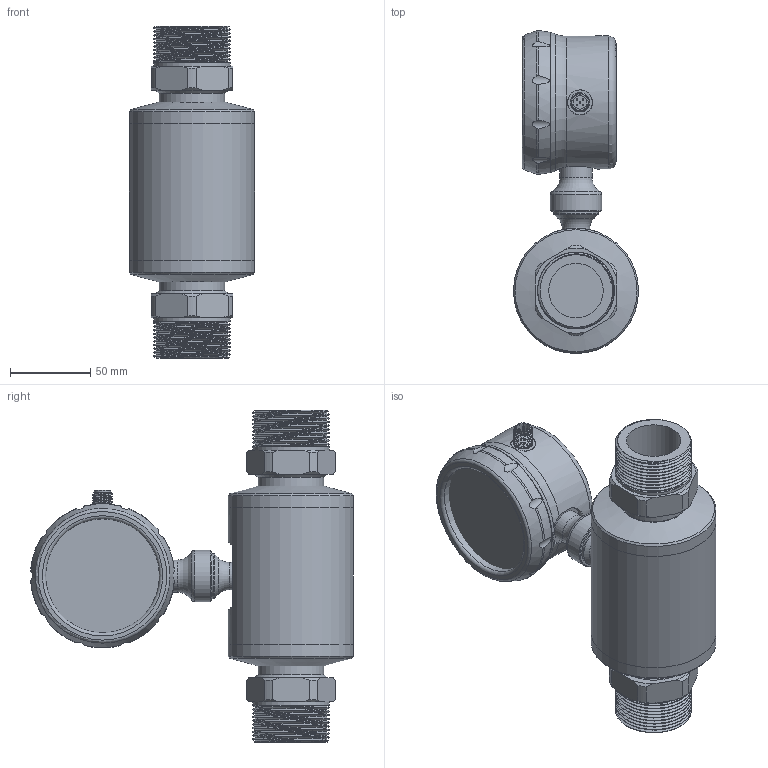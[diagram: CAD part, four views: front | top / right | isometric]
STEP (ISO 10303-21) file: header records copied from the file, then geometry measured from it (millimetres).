
FILE_DESCRIPTION( (''), '2;1');
FILE_NAME( 'QMKD_DN25_H50.5_male-thread.step', '2024-08-30T08:28:54+08:00', (''), (''), '', '', '');
FILE_SCHEMA (('AUTOMOTIVE_DESIGN { 1 0 10303 214 3 1 1 1 }'));
Length unit declared in the file: millimetre
Products named in the file (1): QMKD DN25_H50.5_male-thread
Bounding box: 78 x 201.37 x 207 mm (x, y, z)
Volume: 981084.6 mm3; surface area: 148910.8 mm2
Topology: 11 solids, 11 shells, 256 faces, 621 edges, 401 vertices
Faces by surface type: cylinder 92, plane 63, cone 47, sphere 20, torus 18, bspline 16
Full cylindrical faces by diameter (mm): 11.6 x1, 15 x2, 15.5 x1, 17 x1, 18 x1, 20 x1, 26 x1, 28 x1, 32 x1, 34 x2, 38 x2, 41 x2, 47.803 x2, 70 x2, 71 x1, 78 x3, 80 x2, 83 x1
Entity records: 15531 total; most frequent: CARTESIAN_POINT 10036, DIRECTION 1077, ORIENTED_EDGE 1064, EDGE_CURVE 532, AXIS2_PLACEMENT_3D 489, VERTEX_POINT 379, EDGE_LOOP 341, ADVANCED_FACE 255
